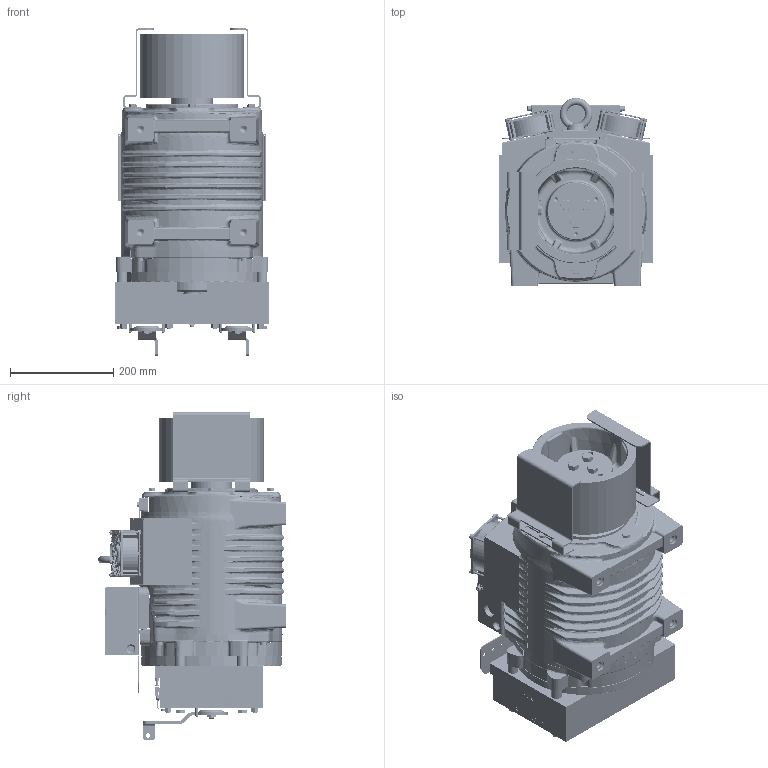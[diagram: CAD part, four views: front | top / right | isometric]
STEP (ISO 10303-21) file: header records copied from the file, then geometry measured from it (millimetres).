
FILE_DESCRIPTION((''),'2;1');
FILE_NAME('00366577_ASM','2023-06-05T12:19:28',('AsgharM'),('Sicor spa'),'CREO PARAMETRIC BY PTC INC, 2022164','CREO PARAMETRIC BY PTC INC, 2022164','');
FILE_SCHEMA(('CONFIG_CONTROL_DESIGN'));
Products named in the file (18): SG30_2023; G__200; _200_125; 00073486; GROWER_M12_GRO0002; TEM12X45_VIT0222; 00246001; M4_FTT_C; 00254619_ASM; 00254091; 00254090; 00254089_ASM; 00257271; 00042420_M4X50; TEM6X12_VIR0184; 00000263; 00257441_ASM; 00366577_ASM
Assembly tree (39 placements, depth 4):
  00366577_ASM
    SG30_2023
    G__200  x2
    _200_125
    00073486
    GROWER_M12_GRO0002  x3
    TEM12X45_VIT0222  x3
    00257441_ASM
      00254619_ASM
        00246001
        M4_FTT_C  x8
      00254089_ASM  x2
        00254091
        00254090
      00257271  x2
      00042420_M4X50  x8
      TEM6X12_VIR0184  x2
      00000263
Bounding box: 300.4 x 364.99 x 635.52 mm (x, y, z)
Volume: 2895065.4 mm3; surface area: 1895967.1 mm2
Topology: 36 solids, 289 shells, 5156 faces, 17606 edges, 12551 vertices
Faces by surface type: plane 2019, cylinder 1232, bspline 1037, torus 432, cone 402, sphere 34
Entity records: 249583 total; most frequent: CARTESIAN_POINT 120716, ORIENTED_EDGE 25158, DIRECTION 24443, EDGE_CURVE 16097, VERTEX_POINT 11662, VECTOR 9167, LINE 9167, AXIS2_PLACEMENT_3D 7638
